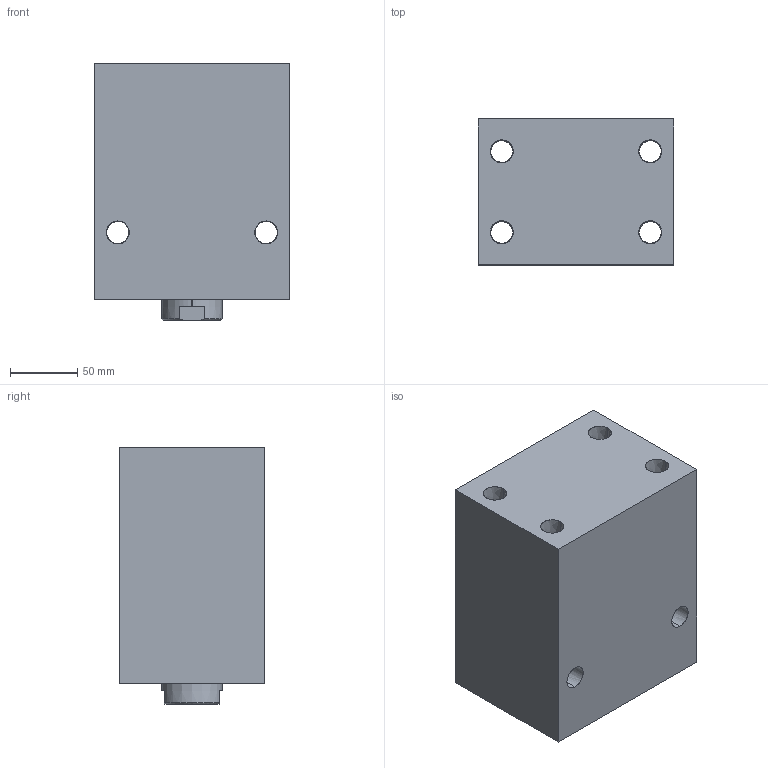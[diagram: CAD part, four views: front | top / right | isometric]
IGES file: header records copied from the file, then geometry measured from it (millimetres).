
Start section: SolidWorks IGES file using analytic representation for surfaces
Global section: file name: D:\karuppas\Clasp\3D model\Block cylinder B01C-Female thread\B01C-710F\Block cylinder B01C-710F.IGS; native system: SolidWorks 2017; preprocessor: SolidWorks 2017; author: pc; date: 220710.000523; units: millimetre
Bounding box: 145 x 108 x 190 mm (x, y, z)
Surface area: 203862.3 mm2 (no closed solid volume)
Topology: 0 solids, 0 shells, 338 faces, 5029 edges, 5023 vertices
Faces by surface type: bspline 286, revolution 52
